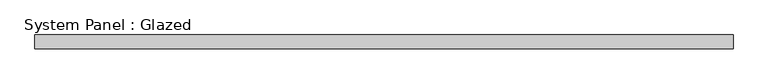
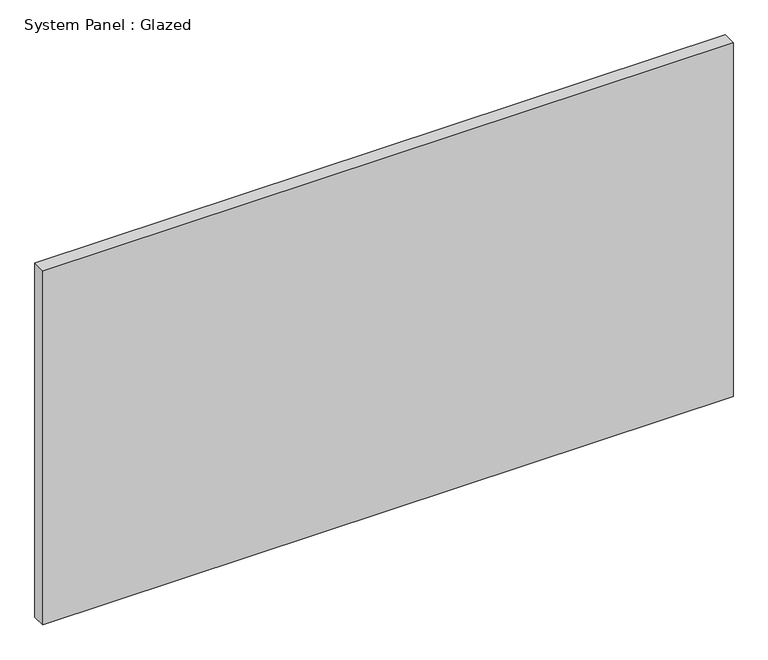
"""IFC4 building model written with IfcOpenShell, lengths in millimetres: plate geometry, System Panel : Glazed."""

import ifcopenshell
import ifcopenshell.guid

model = None  # the IFC model being written
_history = None  # IfcOwnerHistory: only IFC2X3 demands one
_inside = {}  # id of a spatial element -> (the spatial element, [elements in it])
_under = {}  # id of a project, library or spatial element -> (it, [spatial elements below it])
_declared = {}  # id of a project -> (the project, [libraries it declares])
_typed = {}  # id of a type object -> (the type object, [elements of that type])
_made_of = {}  # id of a material, layer set ... -> (it, [elements and type objects made of it])


def new_model(schema):
    """Start an empty IFC model of exactly this schema.

    Asked for "IFC4X3", IfcOpenShell would pick the latest addendum, in which some entities
    have other attributes; the version numbers below select the first issue.
    IFC2X3 requires an IfcOwnerHistory on every rooted entity: one is made here for all.
    """
    global model, _history
    if schema == "IFC4X3":
        model = ifcopenshell.file(schema_version=(4, 3, 0, 0))
    else:
        model = ifcopenshell.file(schema=schema)
    _inside.clear()
    _under.clear()
    _declared.clear()
    _typed.clear()
    _made_of.clear()
    _history = None
    if model.schema == "IFC2X3":
        org = make("IfcOrganization", Name="unknown")
        user = make(
            "IfcPersonAndOrganization",
            ThePerson=make("IfcPerson", FamilyName="unknown"),
            TheOrganization=org,
        )
        app = make(
            "IfcApplication",
            ApplicationDeveloper=org,
            Version="unknown",
            ApplicationFullName="unknown",
            ApplicationIdentifier="unknown",
        )
        _history = make(
            "IfcOwnerHistory",
            OwningUser=user,
            OwningApplication=app,
            ChangeAction="ADDED",
            CreationDate=0,
        )
    return model


def make(cls, **values):
    """One entity of the class cls with the attributes given. An attribute that is None is left unset."""
    return model.create_entity(
        cls, **{name: value for name, value in values.items() if value is not None}
    )


def rooted(cls, **values):
    """An entity with a GlobalId (a new one), such as an element, a storey or a relation."""
    return make(cls, GlobalId=ifcopenshell.guid.new(), OwnerHistory=_history, **values)


def si_unit(unit_type, name, prefix=None):
    """IfcSIUnit, for example si_unit("LENGTHUNIT", "METRE", prefix="MILLI")."""
    return make("IfcSIUnit", UnitType=unit_type, Prefix=prefix, Name=name)


def assignment(units):
    """IfcUnitAssignment: the units of a project."""
    return None if units is None else make("IfcUnitAssignment", Units=units)


def point(xyz):
    """IfcCartesianPoint."""
    return None if xyz is None else make("IfcCartesianPoint", Coordinates=xyz)


def direction(xyz):
    """IfcDirection."""
    return None if xyz is None else make("IfcDirection", DirectionRatios=xyz)


def frame(location, z_axis=None, x_axis=None):
    """IfcAxis2Placement3D, a coordinate frame: its origin and axes. An axis left out is left unset."""
    return make(
        "IfcAxis2Placement3D",
        Location=point(location),
        Axis=direction(z_axis),
        RefDirection=direction(x_axis),
    )


def origin():
    """The frame at (0, 0, 0) with its axes left unset."""
    return frame((0.0, 0.0, 0.0))


def origin_with_axes():
    """The frame at (0, 0, 0) with the z axis (0, 0, 1) and the x axis (1, 0, 0) written out."""
    return frame((0.0, 0.0, 0.0), z_axis=(0.0, 0.0, 1.0), x_axis=(1.0, 0.0, 0.0))


def place(relative_to, where):
    """IfcLocalPlacement: puts the frame where relative to a parent placement (None: the world)."""
    return make(
        "IfcLocalPlacement", PlacementRelTo=relative_to, RelativePlacement=where
    )


def context(
    kind, dimensions, precision=None, world=None, true_north=None, identifier=None
):
    """IfcGeometricRepresentationContext, for example the 3D "Model" context."""
    return make(
        "IfcGeometricRepresentationContext",
        ContextIdentifier=identifier,
        ContextType=kind,
        CoordinateSpaceDimension=dimensions,
        Precision=precision,
        WorldCoordinateSystem=world,
        TrueNorth=true_north,
    )


def project(units=None, contexts=None):
    """IfcProject with its units and contexts."""
    return rooted(
        "IfcProject",
        Name="project",
        RepresentationContexts=contexts,
        UnitsInContext=assignment(units),
    )


def spatial(cls, under=None, at=None, **own):
    """A site, building, storey or space (cls), placed at a placement, below another one or the project."""
    s = rooted(cls, ObjectPlacement=at, **own)
    if under is not None:
        _under.setdefault(under.id(), (under, []))[1].append(s)
    return s


def polyline(points):
    """IfcPolyline through the points."""
    return make("IfcPolyline", Points=[point(p) for p in points])


def outline(outer, holes=None, kind="AREA"):
    """IfcArbitraryClosedProfileDef: a profile drawn as a closed curve; with holes, ...WithVoids."""
    if holes is None:
        return make("IfcArbitraryClosedProfileDef", ProfileType=kind, OuterCurve=outer)
    return make(
        "IfcArbitraryProfileDefWithVoids",
        ProfileType=kind,
        OuterCurve=outer,
        InnerCurves=holes,
    )


def extrude(swept, where, along, depth):
    """IfcExtrudedAreaSolid: the profile swept, set in the frame where, extruded along a direction by depth."""
    return make(
        "IfcExtrudedAreaSolid",
        SweptArea=swept,
        Position=where,
        ExtrudedDirection=direction(along),
        Depth=depth,
    )


def shape(context_of_items, identifier, shape_type, items):
    """IfcShapeRepresentation: the items that make up one representation, for example the "Body"."""
    return make(
        "IfcShapeRepresentation",
        ContextOfItems=context_of_items,
        RepresentationIdentifier=identifier,
        RepresentationType=shape_type,
        Items=items,
    )


def source(mapping_origin, context_of_items, identifier, shape_type, items):
    """IfcRepresentationMap: a shape defined once, which mapped items show again and again."""
    return make(
        "IfcRepresentationMap",
        MappingOrigin=mapping_origin,
        MappedRepresentation=shape(context_of_items, identifier, shape_type, items),
    )


def transform(
    local_origin,
    x_axis=None,
    y_axis=None,
    z_axis=None,
    scale=None,
    scale2=None,
    scale3=None,
    uniform=True,
):
    """IfcCartesianTransformationOperator3D, or its non-uniform kind. x_axis, y_axis, z_axis: its Axis1, 2, 3."""
    if uniform:
        return make(
            "IfcCartesianTransformationOperator3D",
            Axis1=direction(x_axis),
            Axis2=direction(y_axis),
            LocalOrigin=point(local_origin),
            Scale=scale,
            Axis3=direction(z_axis),
        )
    return make(
        "IfcCartesianTransformationOperator3DnonUniform",
        Axis1=direction(x_axis),
        Axis2=direction(y_axis),
        LocalOrigin=point(local_origin),
        Scale=scale,
        Axis3=direction(z_axis),
        Scale2=scale2,
        Scale3=scale3,
    )


def mapped(mapping_source, mapping_target):
    """IfcMappedItem: shows the shape of a source again, moved by a transform."""
    return make(
        "IfcMappedItem", MappingSource=mapping_source, MappingTarget=mapping_target
    )


def made_of(thing, what):
    """Note that an element or type object is made of a material, layer set ...; save() writes the relation."""
    if what is not None:
        _made_of.setdefault(what.id(), (what, []))[1].append(thing)
    return thing


def element(
    cls,
    number,
    at=None,
    inside=None,
    cuts=None,
    type_object=None,
    material=None,
    context=None,
    identifier="Body",
    shape_type=None,
    held_by="IfcProductDefinitionShape",
    body=None,
    shapes=None,
    **own,
):
    """One element of the class cls, such as IfcWall. Its Tag is "e" and its number.

    at: its placement. inside: the storey or other place that contains it. cuts: it is an
    opening in that element (IfcRelVoidsElement). A single representation is given by context,
    identifier, shape_type and body (its items); several are given by shapes. held_by: the class
    of the entity that holds the representations. save() writes the other relations.
    """
    e = rooted(cls, Tag="e%d" % number, ObjectPlacement=at, **own)
    if body is not None:
        shapes = [shape(context, identifier, shape_type, body)]
    if shapes is not None:
        e.Representation = make(held_by, Representations=shapes)
    if inside is not None:
        _inside.setdefault(inside.id(), (inside, []))[1].append(e)
    if cuts is not None:
        rooted(
            "IfcRelVoidsElement", RelatingBuildingElement=cuts, RelatedOpeningElement=e
        )
    if type_object is not None:
        _typed.setdefault(type_object.id(), (type_object, []))[1].append(e)
    return made_of(e, material)


def aggregate(whole, parts):
    """IfcRelAggregates: a whole, such as a stair, and the parts it consists of."""
    return rooted("IfcRelAggregates", RelatingObject=whole, RelatedObjects=parts)


def save(model, path):
    """Write the relations noted so far, then the file.

    IfcRelAggregates (storeys below a building ...), IfcRelContainedInSpatialStructure (elements
    in a storey), IfcRelDefinesByType, IfcRelAssociatesMaterial and IfcRelDeclares: one each for
    every whole, place, type object, material and project.
    """
    for whole, parts in _under.values():
        aggregate(whole, parts)
    for where, things in _inside.values():
        rooted(
            "IfcRelContainedInSpatialStructure",
            RelatedElements=things,
            RelatingStructure=where,
        )
    for kind, things in _typed.values():
        rooted("IfcRelDefinesByType", RelatedObjects=things, RelatingType=kind)
    for what, things in _made_of.values():
        rooted("IfcRelAssociatesMaterial", RelatedObjects=things, RelatingMaterial=what)
    for by, libraries in _declared.values():
        rooted("IfcRelDeclares", RelatingContext=by, RelatedDefinitions=libraries)
    model.write(path)


def system_panel_glazed_8e8a818c(model_context):
    return source(origin(), model_context, "Body", "SweptSolid", [
        extrude(outline(polyline([(622.3125, -49.5), (-622.3125, -49.5), (-622.3125, -24.5), (622.3125, -24.5), (622.3125, -49.5)])), origin_with_axes(), (0.0, 0.0, 1.0), 675.0),
    ])


if __name__ == "__main__":
    model = new_model("IFC4")
    model_context = context("Model", 3, world=origin())
    ifc_project = project(units=[si_unit("LENGTHUNIT", "METRE", prefix="MILLI")], contexts=[model_context])
    site = spatial("IfcSite", under=ifc_project)
    building = spatial("IfcBuilding", under=site)
    placement = place(None, origin())
    system_panel_glazed_shape = system_panel_glazed_8e8a818c(model_context)
    element("IfcPlate", 1, ObjectType="System Panel : Glazed", at=placement, inside=building, context=model_context, shape_type="MappedRepresentation", body=[
        mapped(system_panel_glazed_shape, transform((0.0, 0.0, 0.0), x_axis=(1.0, 0.0, 0.0), y_axis=(0.0, 1.0, 0.0), z_axis=(0.0, 0.0, 1.0))),
    ])
    save(model, "model.ifc")
